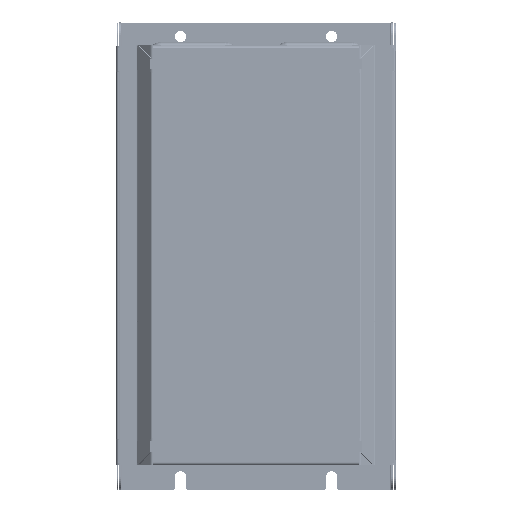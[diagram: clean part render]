
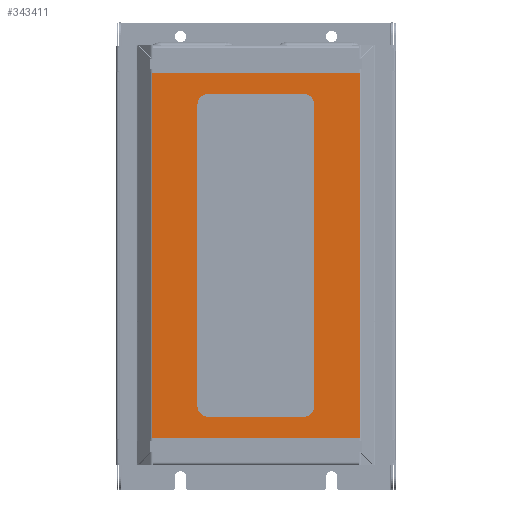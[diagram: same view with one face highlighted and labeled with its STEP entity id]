
A CAD part, top view. The second image highlights one B-rep face of the part: STEP entity #343411.
In plain terms, the highlighted planar face has unit normal (0, 0, 1) as drawn and (0, 1, 0) by its records, which use the part's own axes.
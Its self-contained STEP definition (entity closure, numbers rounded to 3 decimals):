
#343066=CARTESIAN_POINT('',(44.194,244.28,
133.071));
#343067=DIRECTION('',(0.,1.,0.));
#343068=DIRECTION('',(0.,0.,1.));
#343069=AXIS2_PLACEMENT_3D('',#343066,#343067,#343068);
#343071=DIRECTION('',(0.,0.,-1.));
#343072=VECTOR('',#343071,279.);
#343073=CARTESIAN_POINT('',(54.194,244.28,
133.071));
#343074=LINE('',#343073,#343072);
#343075=CARTESIAN_POINT('',(44.194,244.328,
-145.929));
#343076=DIRECTION('',(0.,1.,0.));
#343077=DIRECTION('',(1.,0.,0.));
#343078=AXIS2_PLACEMENT_3D('',#343075,#343076,#343077);
#343080=DIRECTION('',(-1.,0.,0.));
#343081=VECTOR('',#343080,88.4);
#343082=CARTESIAN_POINT('',(44.194,244.33,
-155.929));
#343083=LINE('',#343082,#343081);
#343084=CARTESIAN_POINT('',(-44.206,244.328,
-145.929));
#343085=DIRECTION('',(0.,1.,0.));
#343086=DIRECTION('',(0.,0.,-1.));
#343087=AXIS2_PLACEMENT_3D('',#343084,#343085,#343086);
#343089=DIRECTION('',(0.,0.,1.));
#343090=VECTOR('',#343089,279.);
#343091=CARTESIAN_POINT('',(-54.206,244.328,
-145.929));
#343092=LINE('',#343091,#343090);
#343093=CARTESIAN_POINT('',(-44.206,244.28,
133.071));
#343094=DIRECTION('',(0.,1.,0.));
#343095=DIRECTION('',(-1.,0.,0.));
#343096=AXIS2_PLACEMENT_3D('',#343093,#343094,#343095);
#343098=DIRECTION('',(1.,0.,0.));
#343099=VECTOR('',#343098,88.4);
#343100=CARTESIAN_POINT('',(-44.206,244.278,
143.071));
#343101=LINE('',#343100,#343099);
#343102=DIRECTION('',(-1.,0.,0.));
#343103=VECTOR('',#343102,192.616);
#343104=CARTESIAN_POINT('',(96.307,244.275,
162.391));
#343105=LINE('',#343104,#343103);
#343106=DIRECTION('',(0.,0.,-1.));
#343107=VECTOR('',#343106,337.64);
#343108=CARTESIAN_POINT('',(-96.309,244.275,
162.391));
#343109=LINE('',#343108,#343107);
#343110=DIRECTION('',(1.,0.,0.));
#343111=VECTOR('',#343110,192.616);
#343112=CARTESIAN_POINT('',(-96.309,244.333,
-175.249));
#343113=LINE('',#343112,#343111);
#343114=DIRECTION('',(0.,0.,1.));
#343115=VECTOR('',#343114,337.64);
#343116=CARTESIAN_POINT('',(96.307,244.333,
-175.249));
#343117=LINE('',#343116,#343115);
#343286=CARTESIAN_POINT('',(54.194,244.28,
133.071));
#343287=CARTESIAN_POINT('',(44.194,244.278,
143.071));
#343288=VERTEX_POINT('',#343286);
#343289=VERTEX_POINT('',#343287);
#343290=CARTESIAN_POINT('',(-44.206,244.278,
143.071));
#343291=VERTEX_POINT('',#343290);
#343292=CARTESIAN_POINT('',(-54.206,244.28,
133.071));
#343293=VERTEX_POINT('',#343292);
#343294=CARTESIAN_POINT('',(-54.206,244.328,
-145.929));
#343295=VERTEX_POINT('',#343294);
#343296=CARTESIAN_POINT('',(-44.206,244.33,
-155.929));
#343297=VERTEX_POINT('',#343296);
#343298=CARTESIAN_POINT('',(44.194,244.33,
-155.929));
#343299=VERTEX_POINT('',#343298);
#343300=CARTESIAN_POINT('',(54.194,244.328,
-145.929));
#343301=VERTEX_POINT('',#343300);
#343362=CARTESIAN_POINT('',(96.307,244.333,
-175.249));
#343363=CARTESIAN_POINT('',(96.307,244.275,
162.391));
#343364=VERTEX_POINT('',#343362);
#343365=VERTEX_POINT('',#343363);
#343366=CARTESIAN_POINT('',(-96.309,244.275,
162.391));
#343367=CARTESIAN_POINT('',(-96.309,244.333,
-175.249));
#343368=VERTEX_POINT('',#343366);
#343369=VERTEX_POINT('',#343367);
#343378=CARTESIAN_POINT('',(0.,244.303,0.042));
#343379=DIRECTION('',(0.,1.,0.));
#343380=DIRECTION('',(-1.,0.,0.));
#343381=AXIS2_PLACEMENT_3D('',#343378,#343379,#343380);
#343382=PLANE('',#343381);
#343384=ORIENTED_EDGE('',*,*,#343383,.T.);
#343386=ORIENTED_EDGE('',*,*,#343385,.T.);
#343388=ORIENTED_EDGE('',*,*,#343387,.T.);
#343390=ORIENTED_EDGE('',*,*,#343389,.T.);
#343391=EDGE_LOOP('',(#343384,#343386,#343388,#343390));
#343392=FACE_OUTER_BOUND('',#343391,.F.);
#343394=ORIENTED_EDGE('',*,*,#343393,.T.);
#343396=ORIENTED_EDGE('',*,*,#343395,.T.);
#343398=ORIENTED_EDGE('',*,*,#343397,.T.);
#343400=ORIENTED_EDGE('',*,*,#343399,.T.);
#343402=ORIENTED_EDGE('',*,*,#343401,.T.);
#343404=ORIENTED_EDGE('',*,*,#343403,.T.);
#343406=ORIENTED_EDGE('',*,*,#343405,.T.);
#343408=ORIENTED_EDGE('',*,*,#343407,.T.);
#343409=EDGE_LOOP('',(#343394,#343396,#343398,#343400,#343402,#343404,#343406,
#343408));
#343410=FACE_BOUND('',#343409,.F.);
#343411=ADVANCED_FACE('',(#343392,#343410),#343382,.T.);
#343070=CIRCLE('',#343069,10.);
#343079=CIRCLE('',#343078,10.);
#343088=CIRCLE('',#343087,10.);
#343097=CIRCLE('',#343096,10.);
#343383=EDGE_CURVE('',#343365,#343368,#343105,.T.);
#343385=EDGE_CURVE('',#343368,#343369,#343109,.T.);
#343387=EDGE_CURVE('',#343369,#343364,#343113,.T.);
#343389=EDGE_CURVE('',#343364,#343365,#343117,.T.);
#343393=EDGE_CURVE('',#343289,#343288,#343070,.T.);
#343395=EDGE_CURVE('',#343288,#343301,#343074,.T.);
#343397=EDGE_CURVE('',#343301,#343299,#343079,.T.);
#343399=EDGE_CURVE('',#343299,#343297,#343083,.T.);
#343401=EDGE_CURVE('',#343297,#343295,#343088,.T.);
#343403=EDGE_CURVE('',#343295,#343293,#343092,.T.);
#343405=EDGE_CURVE('',#343293,#343291,#343097,.T.);
#343407=EDGE_CURVE('',#343291,#343289,#343101,.T.);
